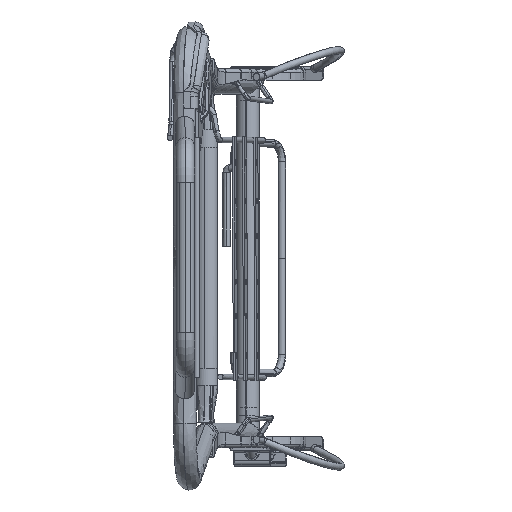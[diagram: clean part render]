
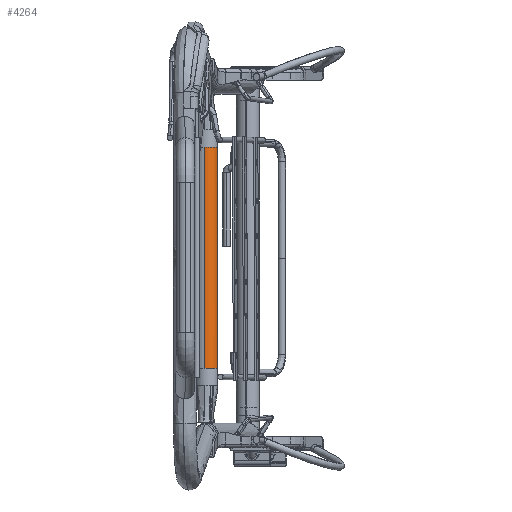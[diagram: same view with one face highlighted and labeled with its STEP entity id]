
A CAD part, top view. The second image highlights one B-rep face of the part: STEP entity #4264.
In plain terms, the highlighted cylindrical face has radius 12.5 mm (diameter 25 mm), a partial arc.
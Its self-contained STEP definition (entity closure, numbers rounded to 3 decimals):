
#4218=AXIS2_PLACEMENT_3D('Cylinder Axis2P3D',#4215,#4216,#4217) ;
#4255=AXIS2_PLACEMENT_3D('Circle Axis2P3D',#4253,#4254,$) ;
#4156=CARTESIAN_POINT('Vertex',(589.265,-835.265,809.69)) ;
#4187=CARTESIAN_POINT('Control Point',(574.722,-835.27,819.739)) ;
#4188=CARTESIAN_POINT('Control Point',(578.585,-835.269,820.445)) ;
#4189=CARTESIAN_POINT('Control Point',(582.728,-835.268,819.639)) ;
#4190=CARTESIAN_POINT('Control Point',(586.34,-835.267,817.143)) ;
#4191=CARTESIAN_POINT('Control Point',(588.559,-835.266,813.553)) ;
#4192=CARTESIAN_POINT('Control Point',(589.265,-835.265,809.69)) ;
#4193=CARTESIAN_POINT('Vertex',(574.722,-835.27,819.739)) ;
#4215=CARTESIAN_POINT('Axis2P3D Location',(576.919,-669.233,807.458)) ;
#4220=CARTESIAN_POINT('Line Origine',(574.672,-669.234,819.755)) ;
#4224=CARTESIAN_POINT('Vertex',(574.649,-594.487,819.762)) ;
#4246=CARTESIAN_POINT('Line Origine',(589.215,-669.229,809.705)) ;
#4250=CARTESIAN_POINT('Vertex',(589.193,-594.481,809.713)) ;
#4253=CARTESIAN_POINT('Axis2P3D Location',(576.896,-594.485,807.466)) ;
#4216=DIRECTION('Axis2P3D Direction',(0.,1.,0.)) ;
#4217=DIRECTION('Axis2P3D XDirection',(-0.984,0.,-0.18)) ;
#4221=DIRECTION('Vector Direction',(0.,1.,0.)) ;
#4247=DIRECTION('Vector Direction',(0.,1.,0.)) ;
#4254=DIRECTION('Axis2P3D Direction',(0.,1.,0.)) ;
#4222=VECTOR('Line Direction',#4221,1.) ;
#4248=VECTOR('Line Direction',#4247,1.) ;
#4259=ORIENTED_EDGE('',*,*,#4252,.F.) ;
#4260=ORIENTED_EDGE('',*,*,#4257,.T.) ;
#4261=ORIENTED_EDGE('',*,*,#4226,.T.) ;
#4262=ORIENTED_EDGE('',*,*,#4195,.F.) ;
#4264=ADVANCED_FACE('SHT0013940_AllCATPart.1\\\X2\976080CC94A27BA14E0A6A2A9AA867B6\X0\.1\\\X2\4EA754C1\X0\2_AllCATPart.1\\ECAS-6805001.1\\\X2\976080CC94A27BA14E0A6A2A9AA867B6\X0\\\\X2\976080CC9AA867B688C5914D603B6210\X0\\\\X2\976080CC9AA867B6710A63A5603B6210\X0\\\\X2\976080CC94A27BA14E0A6A2A9AA867B6\X0\.1\\\X2\652F64917BA1\X0\-\X2\65B968484E00\X0\',(#4263),#4219,.T.) ;
#4186=B_SPLINE_CURVE_WITH_KNOTS('',5,(#4187,#4188,#4189,#4190,#4191,#4192),.UNSPECIFIED.,.F.,.U.,(6,6),(-9.817,9.817),.UNSPECIFIED.) ;
#4256=CIRCLE('generated circle',#4255,12.5) ;
#4219=CYLINDRICAL_SURFACE('generated cylinder',#4218,12.5) ;
#4195=EDGE_CURVE('',#4157,#4194,#4186,.F.) ;
#4226=EDGE_CURVE('',#4225,#4194,#4223,.F.) ;
#4252=EDGE_CURVE('',#4251,#4157,#4249,.F.) ;
#4257=EDGE_CURVE('',#4251,#4225,#4256,.F.) ;
#4258=EDGE_LOOP('',(#4259,#4260,#4261,#4262)) ;
#4263=FACE_OUTER_BOUND('',#4258,.T.) ;
#4223=LINE('Line',#4220,#4222) ;
#4249=LINE('Line',#4246,#4248) ;
#4157=VERTEX_POINT('',#4156) ;
#4194=VERTEX_POINT('',#4193) ;
#4225=VERTEX_POINT('',#4224) ;
#4251=VERTEX_POINT('',#4250) ;
